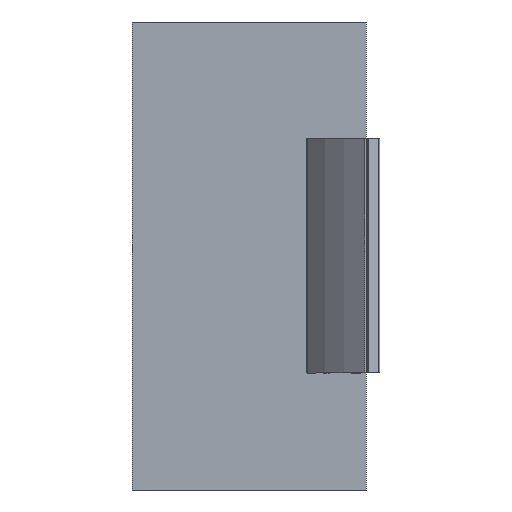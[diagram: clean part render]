
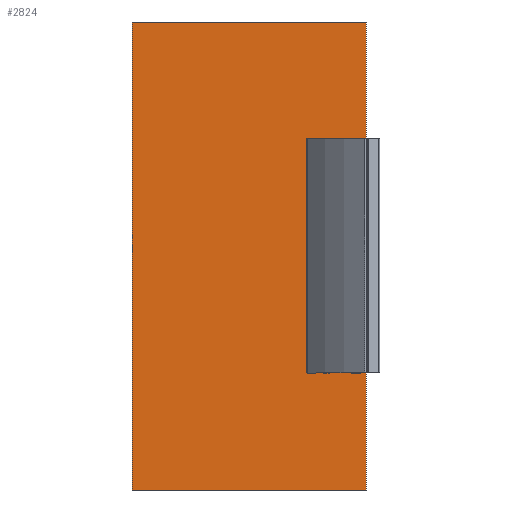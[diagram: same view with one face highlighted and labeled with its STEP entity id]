
A CAD part, front view. The second image highlights one B-rep face of the part: STEP entity #2824.
In plain terms, the highlighted planar face has unit normal (0, -1, 0).
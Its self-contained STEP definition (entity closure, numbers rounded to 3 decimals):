
#108=PLANE('',#3088);
#247=FACE_OUTER_BOUND('',#386,.T.);
#386=EDGE_LOOP('',(#2462,#2463,#2464,#2465));
#651=LINE('',#4665,#926);
#652=LINE('',#4668,#927);
#653=LINE('',#4670,#928);
#654=LINE('',#4671,#929);
#926=VECTOR('',#3857,100.);
#927=VECTOR('',#3860,50.);
#928=VECTOR('',#3861,50.);
#929=VECTOR('',#3862,100.);
#1312=VERTEX_POINT('',#4659);
#1314=VERTEX_POINT('',#4663);
#1315=VERTEX_POINT('',#4667);
#1316=VERTEX_POINT('',#4669);
#1699=EDGE_CURVE('',#1312,#1314,#651,.T.);
#1700=EDGE_CURVE('',#1312,#1315,#652,.T.);
#1701=EDGE_CURVE('',#1316,#1314,#653,.T.);
#1702=EDGE_CURVE('',#1315,#1316,#654,.T.);
#2462=ORIENTED_EDGE('',*,*,#1700,.F.);
#2463=ORIENTED_EDGE('',*,*,#1699,.T.);
#2464=ORIENTED_EDGE('',*,*,#1701,.F.);
#2465=ORIENTED_EDGE('',*,*,#1702,.F.);
#2824=ADVANCED_FACE('',(#247),#108,.T.);
#3088=AXIS2_PLACEMENT_3D('',#4666,#3858,#3859);
#3857=DIRECTION('',(0.,0.,1.));
#3858=DIRECTION('center_axis',(0.,-1.,0.));
#3859=DIRECTION('ref_axis',(1.,0.,0.));
#3860=DIRECTION('',(-1.,0.,0.));
#3861=DIRECTION('',(1.,0.,0.));
#3862=DIRECTION('',(0.,0.,1.));
#4659=CARTESIAN_POINT('',(20.692,-4.78,0.));
#4663=CARTESIAN_POINT('',(20.692,-4.78,100.));
#4665=CARTESIAN_POINT('',(20.692,-4.78,0.));
#4666=CARTESIAN_POINT('Origin',(-29.308,-4.78,0.));
#4667=CARTESIAN_POINT('',(-29.308,-4.78,0.));
#4668=CARTESIAN_POINT('',(20.692,-4.78,0.));
#4669=CARTESIAN_POINT('',(-29.308,-4.78,100.));
#4670=CARTESIAN_POINT('',(20.692,-4.78,100.));
#4671=CARTESIAN_POINT('',(-29.308,-4.78,0.));
